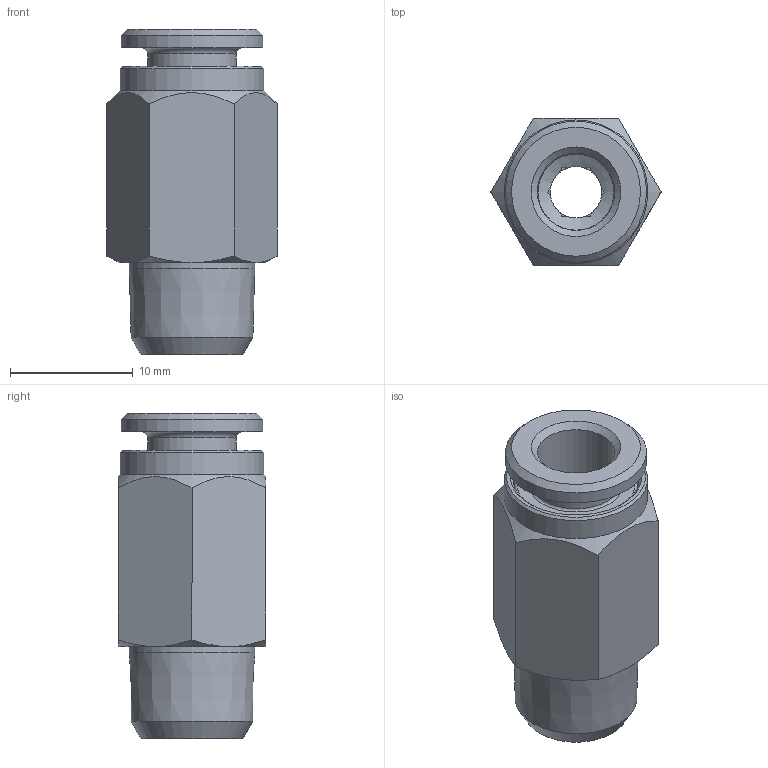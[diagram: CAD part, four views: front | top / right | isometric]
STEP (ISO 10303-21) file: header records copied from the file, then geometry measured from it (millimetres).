
FILE_DESCRIPTION(/* description */ (''),/* implementation_level */ '2;1');
FILE_NAME(/* name */ '9911_0701_0642_HSV-Gerade',/* time_stamp */ '2017-05-04T10:46:09+02:00',/* author */ (''),/* organization */ (''),/* preprocessor_version */ 'ST-DEVELOPER v16.5',/* originating_system */ 'HiCAD 2016 2102.1 Build 498',/* authorisation */ '');
FILE_SCHEMA (('AUTOMOTIVE_DESIGN { 1 0 10303 214 1 1 1 1 }'));
Length unit declared in the file: millimetre
Products named in the file (3): Root; RIVOLUZIONE_0; DR6-C_HSV_25.07.16
Assembly tree (2 placements, depth 2):
  Root
    RIVOLUZIONE_0
    DR6-C_HSV_25.07.16
Bounding box: 13.86 x 12 x 26.5 mm (x, y, z)
Volume: 1706.8 mm3; surface area: 2418.3 mm2
Topology: 2 solids, 2 shells, 63 faces, 144 edges, 89 vertices
Faces by surface type: plane 32, cone 17, cylinder 10, torus 4
Full cylindrical faces by diameter (mm): 4.2 x1, 6.2 x1, 6.3 x1, 7.2 x1, 9.9 x1, 10 x1, 10.219 x1, 10.3 x1, 11.5 x1, 11.7 x1
Entity records: 2846 total; most frequent: DIRECTION 328, CARTESIAN_POINT 267, PRESENTATION_STYLE_ASSIGNMENT 232, COLOUR_RGB 232, DRAUGHTING_PRE_DEFINED_CURVE_FONT 230, CURVE_STYLE 230, OVER_RIDING_STYLED_ITEM 230, ORIENTED_EDGE 230
